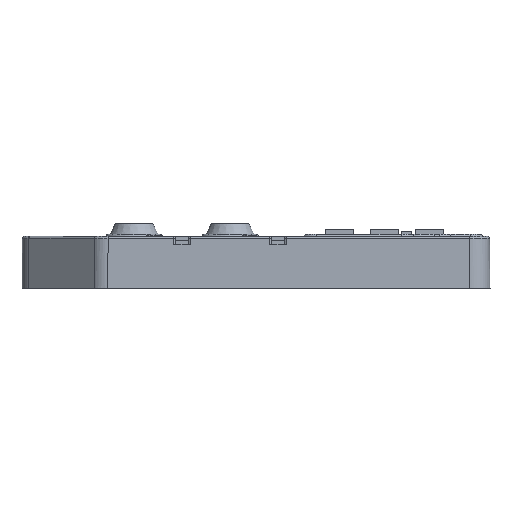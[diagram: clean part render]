
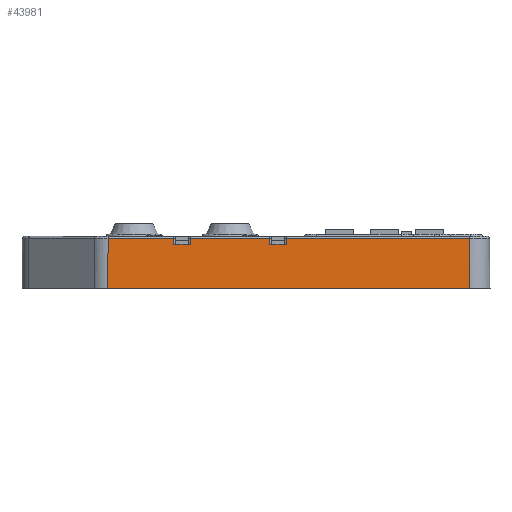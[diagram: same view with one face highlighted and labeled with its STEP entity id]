
A CAD part, front view. The second image highlights one B-rep face of the part: STEP entity #43981.
In plain terms, the highlighted planar face has unit normal (0, -1, 0.009).
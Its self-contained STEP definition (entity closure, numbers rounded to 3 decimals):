
#29530=CARTESIAN_POINT('',(41.9,-27.0,-13.));
#29531=VERTEX_POINT('',#29530);
#29532=CARTESIAN_POINT('',(41.791,-26.891,-0.496));
#29533=VERTEX_POINT('',#29532);
#29534=CARTESIAN_POINT('',(41.9,-27.0,-13.));
#29535=DIRECTION('',(-0.009,0.009,1.));
#29536=VECTOR('',#29535,12.505);
#29537=LINE('',#29534,#29536);
#29538=EDGE_CURVE('',#29531,#29533,#29537,.T.);
#37175=CARTESIAN_POINT('',(-8.141,-26.891,-0.496));
#37176=VERTEX_POINT('',#37175);
#37282=CARTESIAN_POINT('',(-28.059,-26.891,-0.496));
#37283=VERTEX_POINT('',#37282);
#37848=CARTESIAN_POINT('',(-32.141,-26.891,-0.496));
#37849=VERTEX_POINT('',#37848);
#39626=CARTESIAN_POINT('',(-8.115,-26.904,-2.));
#39627=VERTEX_POINT('',#39626);
#39635=CARTESIAN_POINT('',(-4.085,-26.904,-2.));
#39636=VERTEX_POINT('',#39635);
#39637=CARTESIAN_POINT('',(-8.115,-26.904,-2.));
#39638=DIRECTION('',(1.0,0.0,0.0));
#39639=VECTOR('',#39638,4.03);
#39640=LINE('',#39637,#39639);
#39641=EDGE_CURVE('',#39636,#39627,#39640,.F.);
#39666=CARTESIAN_POINT('',(-8.115,-26.904,-2.));
#39667=DIRECTION('',(-0.017,0.009,1.));
#39668=VECTOR('',#39667,1.505);
#39669=LINE('',#39666,#39668);
#39670=EDGE_CURVE('',#39627,#37176,#39669,.T.);
#39684=CARTESIAN_POINT('',(-28.085,-26.904,-2.));
#39685=VERTEX_POINT('',#39684);
#39693=CARTESIAN_POINT('',(-28.059,-26.891,-0.496));
#39694=DIRECTION('',(-0.017,-0.009,-1.));
#39695=VECTOR('',#39694,1.505);
#39696=LINE('',#39693,#39695);
#39697=EDGE_CURVE('',#37283,#39685,#39696,.T.);
#39708=CARTESIAN_POINT('',(-32.115,-26.904,-2.));
#39709=VERTEX_POINT('',#39708);
#39717=CARTESIAN_POINT('',(-32.115,-26.904,-2.));
#39718=DIRECTION('',(1.0,0.0,0.0));
#39719=VECTOR('',#39718,4.03);
#39720=LINE('',#39717,#39719);
#39721=EDGE_CURVE('',#39685,#39709,#39720,.F.);
#39740=CARTESIAN_POINT('',(-32.115,-26.904,-2.));
#39741=DIRECTION('',(-0.017,0.009,1.));
#39742=VECTOR('',#39741,1.505);
#39743=LINE('',#39740,#39742);
#39744=EDGE_CURVE('',#39709,#37849,#39743,.T.);
#39756=CARTESIAN_POINT('',(-4.059,-26.891,-0.496));
#39757=VERTEX_POINT('',#39756);
#39770=CARTESIAN_POINT('',(-4.059,-26.891,-0.496));
#39771=DIRECTION('',(-0.017,-0.009,-1.));
#39772=VECTOR('',#39771,1.505);
#39773=LINE('',#39770,#39772);
#39774=EDGE_CURVE('',#39757,#39636,#39773,.T.);
#40209=CARTESIAN_POINT('',(-48.631,-27.0,-13.));
#40210=VERTEX_POINT('',#40209);
#40218=CARTESIAN_POINT('',(-48.588,-26.891,-0.496));
#40219=VERTEX_POINT('',#40218);
#40220=CARTESIAN_POINT('',(-48.588,-26.891,-0.496));
#40221=DIRECTION('',(-0.003,-0.009,-1.));
#40222=VECTOR('',#40221,12.505);
#40223=LINE('',#40220,#40222);
#40224=EDGE_CURVE('',#40219,#40210,#40223,.T.);
#41094=CARTESIAN_POINT('',(-48.588,-26.891,-0.496));
#41095=DIRECTION('',(1.0,0.0,0.0));
#41096=VECTOR('',#41095,16.446);
#41097=LINE('',#41094,#41096);
#41098=EDGE_CURVE('',#37849,#40219,#41097,.F.);
#41289=CARTESIAN_POINT('',(-28.059,-26.891,-0.496));
#41290=DIRECTION('',(1.0,0.0,0.0));
#41291=VECTOR('',#41290,19.917);
#41292=LINE('',#41289,#41291);
#41293=EDGE_CURVE('',#37176,#37283,#41292,.F.);
#43493=CARTESIAN_POINT('',(-4.059,-26.891,-0.496));
#43494=DIRECTION('',(1.0,0.0,0.0));
#43495=VECTOR('',#43494,45.85);
#43496=LINE('',#43493,#43495);
#43497=EDGE_CURVE('',#39757,#29533,#43496,.T.);
#43723=CARTESIAN_POINT('',(-48.631,-27.0,-13.));
#43724=DIRECTION('',(1.0,0.0,0.0));
#43725=VECTOR('',#43724,90.531);
#43726=LINE('',#43723,#43725);
#43727=EDGE_CURVE('',#29531,#40210,#43726,.F.);
#43962=CARTESIAN_POINT('',(-49.849,-27.003,-13.316));
#43963=DIRECTION('',(0.0,-1.,0.009));
#43964=DIRECTION('',(0.0,-0.009,-1.));
#43965=AXIS2_PLACEMENT_3D('',#43962,#43963,#43964);
#43966=PLANE('',#43965);
#43967=ORIENTED_EDGE('',*,*,#43497,.F.);
#43968=ORIENTED_EDGE('',*,*,#39774,.T.);
#43969=ORIENTED_EDGE('',*,*,#39641,.T.);
#43970=ORIENTED_EDGE('',*,*,#39670,.T.);
#43971=ORIENTED_EDGE('',*,*,#41293,.T.);
#43972=ORIENTED_EDGE('',*,*,#39697,.T.);
#43973=ORIENTED_EDGE('',*,*,#39721,.T.);
#43974=ORIENTED_EDGE('',*,*,#39744,.T.);
#43975=ORIENTED_EDGE('',*,*,#41098,.T.);
#43976=ORIENTED_EDGE('',*,*,#40224,.T.);
#43977=ORIENTED_EDGE('',*,*,#43727,.F.);
#43978=ORIENTED_EDGE('',*,*,#29538,.T.);
#43979=EDGE_LOOP('',(#43967,#43968,#43969,#43970,#43971,#43972,#43973,#43974,#43975,#43976,#43977,#43978));
#43980=FACE_OUTER_BOUND('',#43979,.T.);
#43981=ADVANCED_FACE('',(#43980),#43966,.T.);
